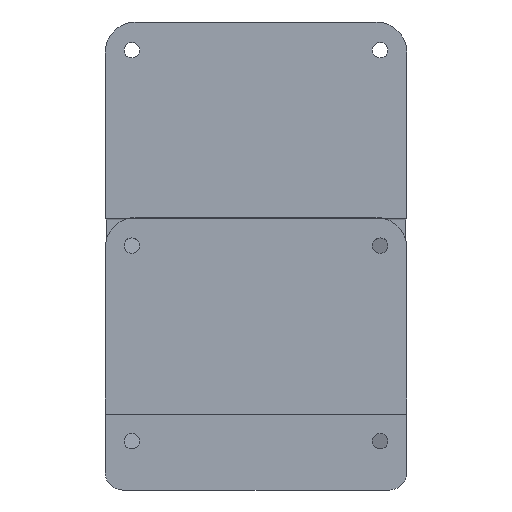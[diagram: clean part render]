
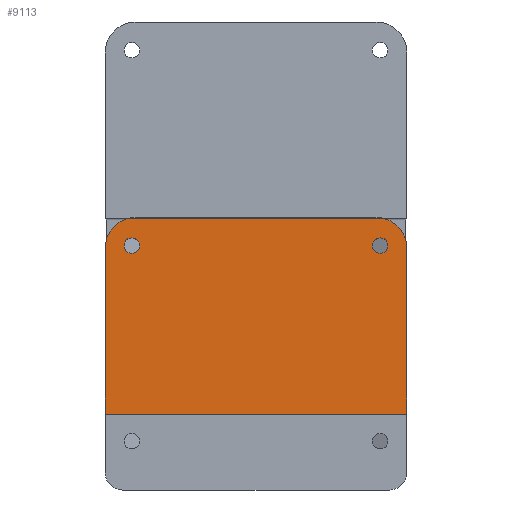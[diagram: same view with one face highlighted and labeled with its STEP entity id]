
A CAD part, top view. The second image highlights one B-rep face of the part: STEP entity #9113.
In plain terms, the highlighted planar face has unit normal (0, 0, 1) as drawn and (0, 0, -1) by its records, which use the part's own axes.
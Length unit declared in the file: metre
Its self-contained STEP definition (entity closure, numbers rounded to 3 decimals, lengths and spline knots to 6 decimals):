
#32=ELLIPSE('',#9772,0.008901,0.00889);
#33=ELLIPSE('',#9773,0.008901,0.00889);
#370=CIRCLE('',#9766,0.002225);
#372=CIRCLE('',#9769,0.002225);
#1396=ORIENTED_EDGE('',*,*,#3650,.T.);
#1397=ORIENTED_EDGE('',*,*,#3629,.T.);
#1398=ORIENTED_EDGE('',*,*,#3654,.T.);
#1399=ORIENTED_EDGE('',*,*,#3655,.F.);
#1400=ORIENTED_EDGE('',*,*,#3656,.T.);
#1401=ORIENTED_EDGE('',*,*,#3657,.F.);
#1402=ORIENTED_EDGE('',*,*,#3658,.T.);
#1403=ORIENTED_EDGE('',*,*,#3652,.F.);
#3629=EDGE_CURVE('',#4807,#4814,#5726,.T.);
#3650=EDGE_CURVE('',#4827,#4827,#370,.T.);
#3652=EDGE_CURVE('',#4829,#4829,#372,.F.);
#3654=EDGE_CURVE('',#4814,#4831,#5743,.F.);
#3655=EDGE_CURVE('',#4832,#4831,#5744,.F.);
#3656=EDGE_CURVE('',#4832,#4833,#32,.F.);
#3657=EDGE_CURVE('',#4834,#4833,#5745,.F.);
#3658=EDGE_CURVE('',#4834,#4807,#33,.F.);
#4807=VERTEX_POINT('',#13936);
#4814=VERTEX_POINT('',#13949);
#4827=VERTEX_POINT('',#13995);
#4829=VERTEX_POINT('',#14000);
#4831=VERTEX_POINT('',#14005);
#4832=VERTEX_POINT('',#14007);
#4833=VERTEX_POINT('',#14009);
#4834=VERTEX_POINT('',#14011);
#5726=LINE('',#13950,#6741);
#5743=LINE('',#14004,#6758);
#5744=LINE('',#14006,#6759);
#5745=LINE('',#14010,#6760);
#6741=VECTOR('',#11115,1.);
#6758=VECTOR('',#11174,1.);
#6759=VECTOR('',#11175,1.);
#6760=VECTOR('',#11178,1.);
#7540=EDGE_LOOP('',(#1396));
#7541=EDGE_LOOP('',(#1397,#1398,#1399,#1400,#1401,#1402));
#7542=EDGE_LOOP('',(#1403));
#8146=FACE_BOUND('',#7540,.T.);
#8147=FACE_BOUND('',#7541,.T.);
#8148=FACE_BOUND('',#7542,.T.);
#8702=PLANE('',#9771);
#9113=ADVANCED_FACE('',(#8146,#8147,#8148),#8702,.F.);
#9766=AXIS2_PLACEMENT_3D('',#13994,#11162,#11163);
#9769=AXIS2_PLACEMENT_3D('',#13999,#11168,#11169);
#9771=AXIS2_PLACEMENT_3D('',#14003,#11172,#11173);
#9772=AXIS2_PLACEMENT_3D('',#14008,#11176,#11177);
#9773=AXIS2_PLACEMENT_3D('',#14012,#11179,#11180);
#11115=DIRECTION('',(0.,1.,0.));
#11162=DIRECTION('',(0.,0.,1.));
#11163=DIRECTION('',(1.,0.,0.));
#11168=DIRECTION('',(0.,0.,1.));
#11169=DIRECTION('',(1.,0.,0.));
#11172=DIRECTION('',(0.,0.,1.));
#11173=DIRECTION('',(1.,0.,0.));
#11174=DIRECTION('',(-1.,0.,0.));
#11175=DIRECTION('',(0.,-1.,0.));
#11176=DIRECTION('',(0.,0.,1.));
#11177=DIRECTION('',(0.707,-0.707,0.));
#11178=DIRECTION('',(-1.,0.,0.));
#11179=DIRECTION('',(0.,0.,1.));
#11180=DIRECTION('',(-0.707,-0.707,0.));
#13936=CARTESIAN_POINT('',(0.,0.008885,0.));
#13949=CARTESIAN_POINT('',(0.,0.0563,0.));
#13950=CARTESIAN_POINT('',(0.,0.,0.));
#13994=CARTESIAN_POINT('',(0.00769,0.008071,0.));
#13995=CARTESIAN_POINT('',(0.009915,0.008071,0.));
#13999=CARTESIAN_POINT('',(0.07881,0.008071,0.));
#14000=CARTESIAN_POINT('',(0.081035,0.008071,0.));
#14003=CARTESIAN_POINT('',(0.04325,0.03485,0.));
#14004=CARTESIAN_POINT('',(0.04325,0.0563,0.));
#14005=CARTESIAN_POINT('',(0.0865,0.0563,0.));
#14006=CARTESIAN_POINT('',(0.0865,0.,0.));
#14007=CARTESIAN_POINT('',(0.0865,0.008885,0.));
#14008=CARTESIAN_POINT('',(0.077605,0.008895,0.));
#14009=CARTESIAN_POINT('',(0.077615,0.,0.));
#14010=CARTESIAN_POINT('',(0.04325,0.,0.));
#14011=CARTESIAN_POINT('',(0.008885,0.,0.));
#14012=CARTESIAN_POINT('',(0.008895,0.008895,0.));
